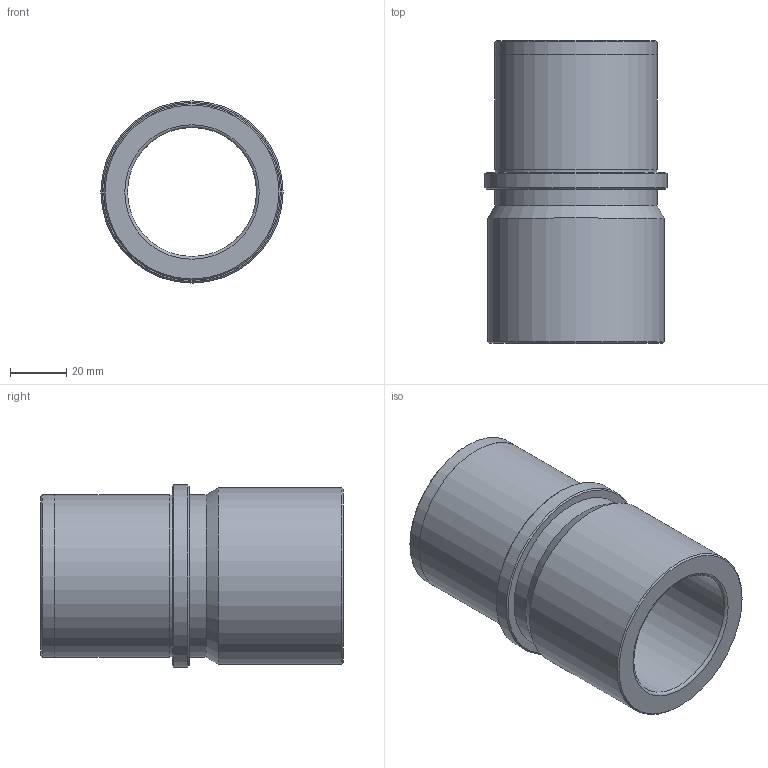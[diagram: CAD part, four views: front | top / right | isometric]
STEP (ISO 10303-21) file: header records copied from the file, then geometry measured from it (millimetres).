
FILE_DESCRIPTION( ( 'STEP AP203' ), '1' );
FILE_NAME( 'C:/Documents and Settings/EXPER/Desktop/Cuma/24 03 2009/D27/D27_38X108X47.step', '2003-01-02T03:41:55', ( ' ' ), ( ' ' ), 'XStep 1.0', ' ', ' ' );
FILE_SCHEMA( ( 'CONFIG_CONTROL_DESIGN' ) );
Length unit declared in the file: metre
Products named in the file (1): 1
Bounding box: 65 x 108 x 65 mm (x, y, z)
Volume: 131941.5 mm3; surface area: 39802.7 mm2
Topology: 1 solids, 1 shells, 20 faces, 34 edges, 20 vertices
Faces by surface type: cylinder 7, plane 6, cone 5, torus 2
Full cylindrical faces by diameter (mm): 46 x1, 57.5 x1, 57.98 x1, 58 x2, 63 x1, 65 x1
Entity records: 453 total; most frequent: DIRECTION 82, CARTESIAN_POINT 61, AXIS2_PLACEMENT_3D 41, EDGE_LOOP 40, ORIENTED_EDGE 40, FACE_OUTER_BOUND 29, ADVANCED_FACE 20, EDGE_CURVE 20
